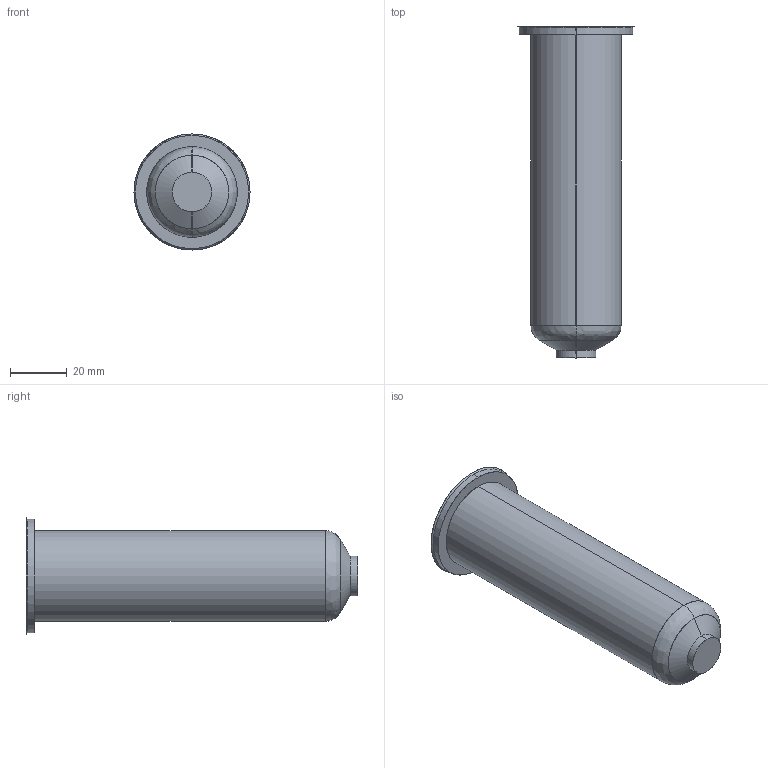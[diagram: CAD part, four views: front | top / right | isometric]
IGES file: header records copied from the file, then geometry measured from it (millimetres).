
Start section: SolidWorks IGES file using analytic representation for surfaces
Global section: file name: C:\Documents and Settings\ws-20\Desktop\TEMPORANEA\Sede UGBE4003-M-A C-114 L-134 P-0.IGS; native system: SolidWorks 2012; preprocessor: SolidWorks 2012; author: ws-20; date: 120306.141550; units: millimetre
Bounding box: 41 x 117.29 x 41 mm (x, y, z)
Surface area: 13817.4 mm2 (no closed solid volume)
Topology: 0 solids, 0 shells, 15 faces, 272 edges, 272 vertices
Faces by surface type: revolution 10, bspline 5
